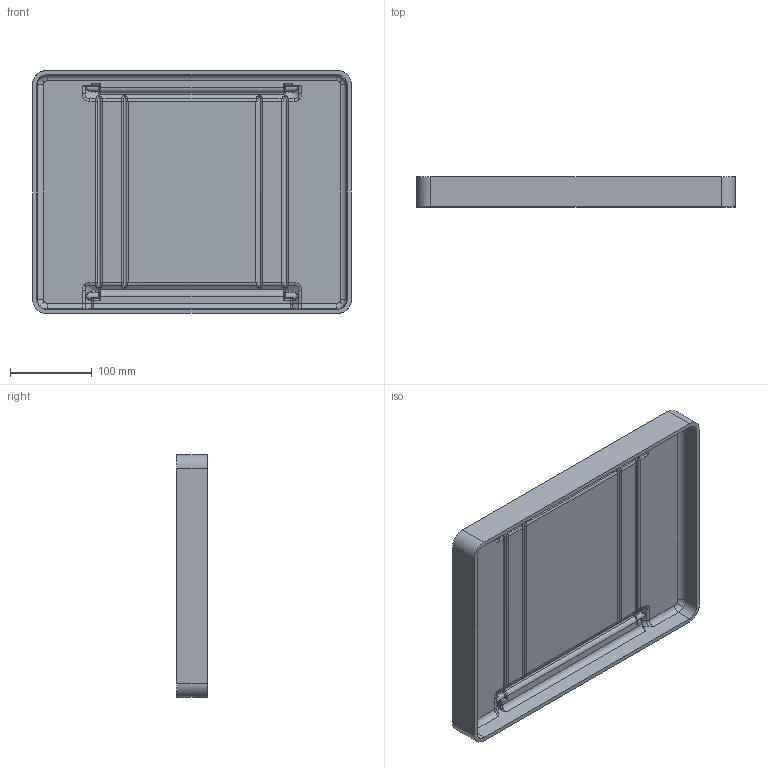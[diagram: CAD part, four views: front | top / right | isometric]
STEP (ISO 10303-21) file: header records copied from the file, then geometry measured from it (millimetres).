
FILE_DESCRIPTION (( 'STEP AP214' ), '1' );
FILE_NAME ('1090-CASE-TOP.STEP', '2008-05-14T20:47:23', ( ' ' ), ( ' ' ), 'SwSTEP 2.0', 'SolidWorks 2007', '' );
FILE_SCHEMA (( 'AUTOMOTIVE_DESIGN' ));
Length unit declared in the file: inch
Products named in the file (1): 1090-CASE-TOP
Bounding box: 390.85 x 37.21 x 298.14 mm (x, y, z)
Volume: 1526918.1 mm3; surface area: 316152 mm2
Topology: 1 solids, 1 shells, 217 faces, 537 edges, 305 vertices
Faces by surface type: bspline 95, cylinder 75, plane 27, torus 10, sphere 10
Entity records: 9045 total; most frequent: CARTESIAN_POINT 4875, ORIENTED_EDGE 1022, DIRECTION 693, EDGE_CURVE 511, VERTEX_POINT 297, AXIS2_PLACEMENT_3D 273, EDGE_LOOP 218, FACE_OUTER_BOUND 217
